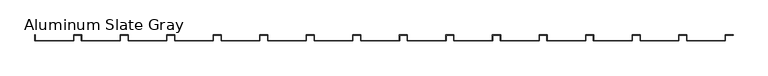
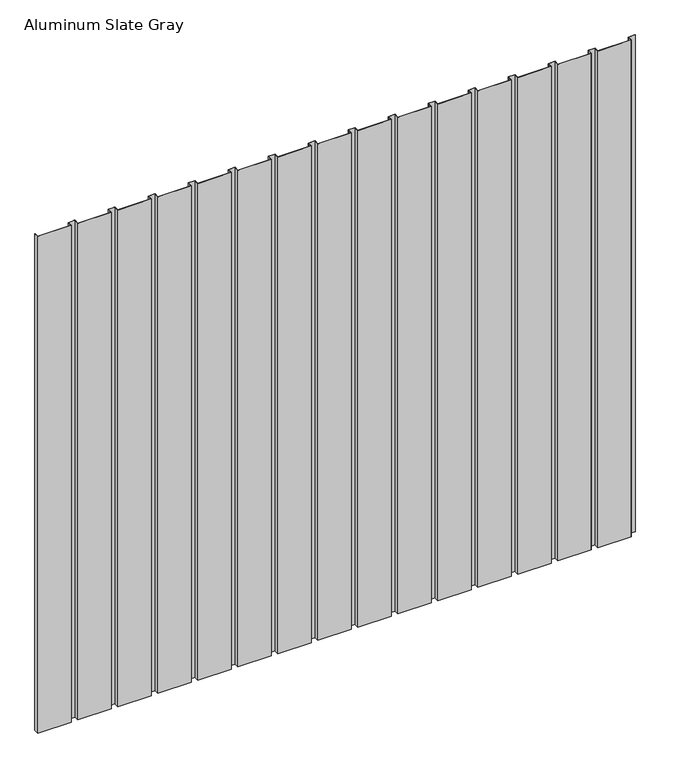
"""IFC4 building model written with IfcOpenShell, lengths in millimetres: proxy geometry, TitanTek LBR 1 VariPanel™ System : Aluminum Slate Gray."""

from ifc_helpers import new_model, si_unit, origin, origin_with_axes, place, context, project, spatial, polyline, outline, extrude, source, transform, mapped, element, save


def aluminum_slate_gray_941ba9cd(model_context):
    return source(origin(), model_context, "Body", "SweptSolid", [
        extrude(outline(polyline([(4521.2, -0.9921875), (4521.2, -38.1), (4267.2, -38.1), (4267.2, 0.0), (4268.1921875, 0.0), (4268.1921875, -37.1078125), (4520.2078125, -37.1078125), (4520.2078125, 0.0), (4572.0, 0.0), (4572.0, -0.9921875), (4521.2, -0.9921875)])), origin_with_axes(), (0.0, 0.0, 1.0), 4000.0),
        extrude(outline(polyline([(4216.4, -0.9921875), (4216.4, -38.1), (3962.4, -38.1), (3962.4, 0.0), (3963.3921875, 0.0), (3963.3921875, -37.1078125), (4215.4078125, -37.1078125), (4215.4078125, 0.0), (4267.2, 0.0), (4267.2, -0.9921875), (4216.4, -0.9921875)])), origin_with_axes(), (0.0, 0.0, 1.0), 4000.0),
        extrude(outline(polyline([(3911.6, -0.9921875), (3911.6, -38.1), (3657.6, -38.1), (3657.6, 0.0), (3658.5921875, 0.0), (3658.5921875, -37.1078125), (3910.6078125, -37.1078125), (3910.6078125, 0.0), (3962.4, 0.0), (3962.4, -0.9921875), (3911.6, -0.9921875)])), origin_with_axes(), (0.0, 0.0, 1.0), 4000.0),
        extrude(outline(polyline([(3606.8, -0.9921875), (3606.8, -38.1), (3352.8, -38.1), (3352.8, 0.0), (3353.7921875, 0.0), (3353.7921875, -37.1078125), (3605.8078125, -37.1078125), (3605.8078125, 0.0), (3657.6, 0.0), (3657.6, -0.9921875), (3606.8, -0.9921875)])), origin_with_axes(), (0.0, 0.0, 1.0), 4000.0),
        extrude(outline(polyline([(3302.0, -0.9921875), (3302.0, -38.1), (3048.0, -38.1), (3048.0, 0.0), (3048.9921875, 0.0), (3048.9921875, -37.1078125), (3301.0078125, -37.1078125), (3301.0078125, 0.0), (3352.8, 0.0), (3352.8, -0.9921875), (3302.0, -0.9921875)])), origin_with_axes(), (0.0, 0.0, 1.0), 4000.0),
        extrude(outline(polyline([(2997.2, -0.9921875), (2997.2, -38.1), (2743.2, -38.1), (2743.2, 0.0), (2744.1921875, 0.0), (2744.1921875, -37.1078125), (2996.2078125, -37.1078125), (2996.2078125, 0.0), (3048.0, 0.0), (3048.0, -0.9921875), (2997.2, -0.9921875)])), origin_with_axes(), (0.0, 0.0, 1.0), 4000.0),
        extrude(outline(polyline([(2692.4, -0.9921875), (2692.4, -38.1), (2438.4, -38.1), (2438.4, 0.0), (2439.3921875, 0.0), (2439.3921875, -37.1078125), (2691.4078125, -37.1078125), (2691.4078125, 0.0), (2743.2, 0.0), (2743.2, -0.9921875), (2692.4, -0.9921875)])), origin_with_axes(), (0.0, 0.0, 1.0), 4000.0),
        extrude(outline(polyline([(2387.6, -0.9921875), (2387.6, -38.1), (2133.6, -38.1), (2133.6, 0.0), (2134.5921875, 0.0), (2134.5921875, -37.1078125), (2386.6078125, -37.1078125), (2386.6078125, 0.0), (2438.4, 0.0), (2438.4, -0.9921875), (2387.6, -0.9921875)])), origin_with_axes(), (0.0, 0.0, 1.0), 4000.0),
        extrude(outline(polyline([(2082.8, -0.9921875), (2082.8, -38.1), (1828.8, -38.1), (1828.8, 0.0), (1829.7921875, 0.0), (1829.7921875, -37.1078125), (2081.8078125, -37.1078125), (2081.8078125, 0.0), (2133.6, 0.0), (2133.6, -0.9921875), (2082.8, -0.9921875)])), origin_with_axes(), (0.0, 0.0, 1.0), 4000.0),
        extrude(outline(polyline([(1778.0, -0.9921875), (1778.0, -38.1), (1524.0, -38.1), (1524.0, 0.0), (1524.9921875, 0.0), (1524.9921875, -37.1078125), (1777.0078125, -37.1078125), (1777.0078125, 0.0), (1828.8, 0.0), (1828.8, -0.9921875), (1778.0, -0.9921875)])), origin_with_axes(), (0.0, 0.0, 1.0), 4000.0),
        extrude(outline(polyline([(1473.2, -0.9921875), (1473.2, -38.1), (1219.2, -38.1), (1219.2, 0.0), (1220.1921875, 0.0), (1220.1921875, -37.1078125), (1472.2078125, -37.1078125), (1472.2078125, 0.0), (1524.0, 0.0), (1524.0, -0.9921875), (1473.2, -0.9921875)])), origin_with_axes(), (0.0, 0.0, 1.0), 4000.0),
        extrude(outline(polyline([(1168.4, -0.9921875), (1168.4, -38.1), (914.4, -38.1), (914.4, 0.0), (915.3921875, 0.0), (915.3921875, -37.1078125), (1167.4078125, -37.1078125), (1167.4078125, 0.0), (1219.2, 0.0), (1219.2, -0.9921875), (1168.4, -0.9921875)])), origin_with_axes(), (0.0, 0.0, 1.0), 4000.0),
        extrude(outline(polyline([(863.6, -0.9921875), (863.6, -38.1), (609.6, -38.1), (609.6, 0.0), (610.5921875, 0.0), (610.5921875, -37.1078125), (862.6078125, -37.1078125), (862.6078125, 0.0), (914.4, 0.0), (914.4, -0.9921875), (863.6, -0.9921875)])), origin_with_axes(), (0.0, 0.0, 1.0), 4000.0),
        extrude(outline(polyline([(558.8, -0.9921875), (558.8, -38.1), (304.8, -38.1), (304.8, 0.0), (305.7921875, 0.0), (305.7921875, -37.1078125), (557.8078125, -37.1078125), (557.8078125, 0.0), (609.6, 0.0), (609.6, -0.9921875), (558.8, -0.9921875)])), origin_with_axes(), (0.0, 0.0, 1.0), 4000.0),
        extrude(outline(polyline([(254.0, -0.9921875), (254.0, -38.1), (0.0, -38.1), (0.0, 0.0), (0.9921875, 0.0), (0.9921875, -37.1078125), (253.0078125, -37.1078125), (253.0078125, 0.0), (304.8, 0.0), (304.8, -0.9921875), (254.0, -0.9921875)])), origin_with_axes(), (0.0, 0.0, 1.0), 4000.0),
    ])


if __name__ == "__main__":
    model = new_model("IFC4")
    model_context = context("Model", 3, world=origin())
    ifc_project = project(units=[si_unit("LENGTHUNIT", "METRE", prefix="MILLI")], contexts=[model_context])
    site = spatial("IfcSite", under=ifc_project)
    building = spatial("IfcBuilding", under=site)
    placement = place(None, origin())
    aluminum_slate_gray_shape = aluminum_slate_gray_941ba9cd(model_context)
    element("IfcBuildingElementProxy", 1, Name="TitanTek LBR 1 VariPanel™ System : Aluminum Slate Gray", ObjectType="TitanTek LBR 1 VariPanel™ System : Aluminum Slate Gray", at=placement, inside=building, context=model_context, shape_type="MappedRepresentation", body=[
        mapped(aluminum_slate_gray_shape, transform((0.0, 0.0, 0.0), x_axis=(1.0, 0.0, 0.0), y_axis=(0.0, 1.0, 0.0), z_axis=(0.0, 0.0, 1.0))),
    ])
    save(model, "model.ifc")
